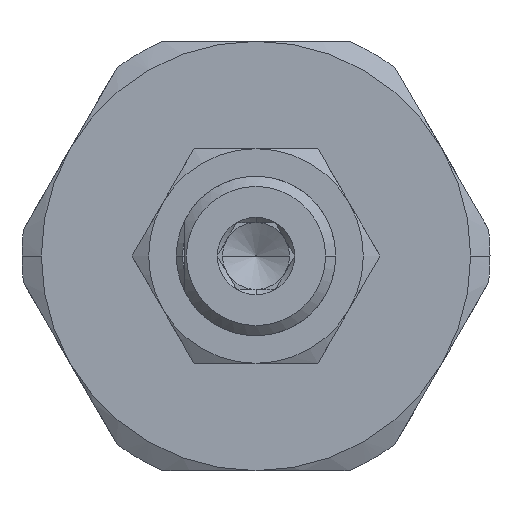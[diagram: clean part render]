
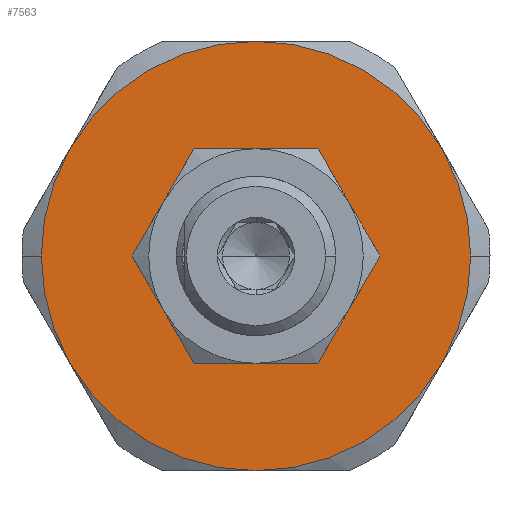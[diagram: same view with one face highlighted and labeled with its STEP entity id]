
A CAD part, left-side view. The second image highlights one B-rep face of the part: STEP entity #7563.
In plain terms, the highlighted planar face has unit normal (-1, 0, 0).
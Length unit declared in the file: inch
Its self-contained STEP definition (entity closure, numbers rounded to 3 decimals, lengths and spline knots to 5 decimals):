
#948=CARTESIAN_POINT('',(0.61,0.5,2.61));
#949=VERTEX_POINT('',#948);
#965=CARTESIAN_POINT('',(0.61,0.43301,2.36));
#966=VERTEX_POINT('',#965);
#980=CARTESIAN_POINT('',(0.61,0.0,2.61));
#981=DIRECTION('',(-1.0,0.0,0.0));
#982=DIRECTION('',(0.0,1.0,0.0));
#983=AXIS2_PLACEMENT_3D('',#980,#981,#982);
#984=CIRCLE('',#983,0.5);
#985=EDGE_CURVE('',#949,#966,#984,.T.);
#995=CARTESIAN_POINT('',(0.61,-0.5,2.61));
#996=VERTEX_POINT('',#995);
#1003=CARTESIAN_POINT('',(0.61,-0.43301,2.36));
#1004=VERTEX_POINT('',#1003);
#1005=CARTESIAN_POINT('',(0.61,0.0,2.61));
#1006=DIRECTION('',(-1.0,0.0,0.0));
#1007=DIRECTION('',(0.0,1.0,0.0));
#1008=AXIS2_PLACEMENT_3D('',#1005,#1006,#1007);
#1009=CIRCLE('',#1008,0.5);
#1010=EDGE_CURVE('',#1004,#996,#1009,.T.);
#5974=CARTESIAN_POINT('',(0.61,0.21651,2.735));
#5975=VERTEX_POINT('',#5974);
#5989=CARTESIAN_POINT('',(0.61,0.0,2.86));
#5990=VERTEX_POINT('',#5989);
#6004=CARTESIAN_POINT('',(0.61,0.,2.61));
#6005=DIRECTION('',(1.0,0.0,0.0));
#6006=DIRECTION('',(0.0,0.0,1.0));
#6007=AXIS2_PLACEMENT_3D('',#6004,#6005,#6006);
#6008=CIRCLE('',#6007,0.25);
#6009=EDGE_CURVE('',#5975,#5990,#6008,.T.);
#6021=CARTESIAN_POINT('',(0.61,0.21651,2.485));
#6022=VERTEX_POINT('',#6021);
#6049=CARTESIAN_POINT('',(0.61,0.,2.61));
#6050=DIRECTION('',(1.0,0.0,0.0));
#6051=DIRECTION('',(0.0,0.0,1.0));
#6052=AXIS2_PLACEMENT_3D('',#6049,#6050,#6051);
#6053=CIRCLE('',#6052,0.25);
#6054=EDGE_CURVE('',#6022,#5975,#6053,.T.);
#6066=CARTESIAN_POINT('',(0.61,0.0,2.36));
#6067=VERTEX_POINT('',#6066);
#6094=CARTESIAN_POINT('',(0.61,0.,2.61));
#6095=DIRECTION('',(1.0,0.0,0.0));
#6096=DIRECTION('',(0.0,0.0,1.0));
#6097=AXIS2_PLACEMENT_3D('',#6094,#6095,#6096);
#6098=CIRCLE('',#6097,0.25);
#6099=EDGE_CURVE('',#6067,#6022,#6098,.T.);
#6124=CARTESIAN_POINT('',(0.61,-0.21651,2.485));
#6125=VERTEX_POINT('',#6124);
#6126=CARTESIAN_POINT('',(0.61,0.,2.61));
#6127=DIRECTION('',(1.0,0.0,0.0));
#6128=DIRECTION('',(0.0,0.0,1.0));
#6129=AXIS2_PLACEMENT_3D('',#6126,#6127,#6128);
#6130=CIRCLE('',#6129,0.25);
#6131=EDGE_CURVE('',#6125,#6067,#6130,.T.);
#6169=CARTESIAN_POINT('',(0.61,-0.21651,2.735));
#6170=VERTEX_POINT('',#6169);
#6171=CARTESIAN_POINT('',(0.61,0.,2.61));
#6172=DIRECTION('',(1.0,0.0,0.0));
#6173=DIRECTION('',(0.0,0.0,1.0));
#6174=AXIS2_PLACEMENT_3D('',#6171,#6172,#6173);
#6175=CIRCLE('',#6174,0.25);
#6176=EDGE_CURVE('',#6170,#6125,#6175,.T.);
#6214=CARTESIAN_POINT('',(0.61,0.,2.61));
#6215=DIRECTION('',(1.0,0.0,0.0));
#6216=DIRECTION('',(0.0,0.0,1.0));
#6217=AXIS2_PLACEMENT_3D('',#6214,#6215,#6216);
#6218=CIRCLE('',#6217,0.25);
#6219=EDGE_CURVE('',#5990,#6170,#6218,.T.);
#7496=CARTESIAN_POINT('',(0.61,0.,2.61));
#7497=DIRECTION('',(1.0,0.0,0.0));
#7498=DIRECTION('',(0.0,0.0,-1.0));
#7499=AXIS2_PLACEMENT_3D('',#7496,#7497,#7498);
#7500=PLANE('',#7499);
#7501=CARTESIAN_POINT('',(0.61,-0.43301,2.86));
#7502=VERTEX_POINT('',#7501);
#7503=CARTESIAN_POINT('',(0.61,0.,3.11));
#7504=VERTEX_POINT('',#7503);
#7505=CARTESIAN_POINT('',(0.61,0.0,2.61));
#7506=DIRECTION('',(-1.0,0.0,0.0));
#7507=DIRECTION('',(0.0,1.0,0.0));
#7508=AXIS2_PLACEMENT_3D('',#7505,#7506,#7507);
#7509=CIRCLE('',#7508,0.5);
#7510=EDGE_CURVE('',#7502,#7504,#7509,.T.);
#7511=ORIENTED_EDGE('',*,*,#7510,.T.);
#7512=CARTESIAN_POINT('',(0.61,0.43301,2.86));
#7513=VERTEX_POINT('',#7512);
#7514=CARTESIAN_POINT('',(0.61,0.0,2.61));
#7515=DIRECTION('',(-1.0,0.0,0.0));
#7516=DIRECTION('',(0.0,1.0,0.0));
#7517=AXIS2_PLACEMENT_3D('',#7514,#7515,#7516);
#7518=CIRCLE('',#7517,0.5);
#7519=EDGE_CURVE('',#7504,#7513,#7518,.T.);
#7520=ORIENTED_EDGE('',*,*,#7519,.T.);
#7521=CARTESIAN_POINT('',(0.61,0.0,2.61));
#7522=DIRECTION('',(-1.0,0.0,0.0));
#7523=DIRECTION('',(0.0,1.0,0.0));
#7524=AXIS2_PLACEMENT_3D('',#7521,#7522,#7523);
#7525=CIRCLE('',#7524,0.5);
#7526=EDGE_CURVE('',#7513,#949,#7525,.T.);
#7527=ORIENTED_EDGE('',*,*,#7526,.T.);
#7528=ORIENTED_EDGE('',*,*,#985,.T.);
#7529=CARTESIAN_POINT('',(0.61,0.,2.11));
#7530=VERTEX_POINT('',#7529);
#7531=CARTESIAN_POINT('',(0.61,0.0,2.61));
#7532=DIRECTION('',(-1.0,0.0,0.0));
#7533=DIRECTION('',(0.0,1.0,0.0));
#7534=AXIS2_PLACEMENT_3D('',#7531,#7532,#7533);
#7535=CIRCLE('',#7534,0.5);
#7536=EDGE_CURVE('',#966,#7530,#7535,.T.);
#7537=ORIENTED_EDGE('',*,*,#7536,.T.);
#7538=CARTESIAN_POINT('',(0.61,0.0,2.61));
#7539=DIRECTION('',(-1.0,0.0,0.0));
#7540=DIRECTION('',(0.0,1.0,0.0));
#7541=AXIS2_PLACEMENT_3D('',#7538,#7539,#7540);
#7542=CIRCLE('',#7541,0.5);
#7543=EDGE_CURVE('',#7530,#1004,#7542,.T.);
#7544=ORIENTED_EDGE('',*,*,#7543,.T.);
#7545=ORIENTED_EDGE('',*,*,#1010,.T.);
#7546=CARTESIAN_POINT('',(0.61,0.0,2.61));
#7547=DIRECTION('',(-1.0,0.0,0.0));
#7548=DIRECTION('',(0.0,1.0,0.0));
#7549=AXIS2_PLACEMENT_3D('',#7546,#7547,#7548);
#7550=CIRCLE('',#7549,0.5);
#7551=EDGE_CURVE('',#996,#7502,#7550,.T.);
#7552=ORIENTED_EDGE('',*,*,#7551,.T.);
#7553=EDGE_LOOP('',(#7511,#7520,#7527,#7528,#7537,#7544,#7545,#7552));
#7554=FACE_OUTER_BOUND('',#7553,.T.);
#7555=ORIENTED_EDGE('',*,*,#6009,.T.);
#7556=ORIENTED_EDGE('',*,*,#6219,.T.);
#7557=ORIENTED_EDGE('',*,*,#6176,.T.);
#7558=ORIENTED_EDGE('',*,*,#6131,.T.);
#7559=ORIENTED_EDGE('',*,*,#6099,.T.);
#7560=ORIENTED_EDGE('',*,*,#6054,.T.);
#7561=EDGE_LOOP('',(#7555,#7556,#7557,#7558,#7559,#7560));
#7562=FACE_BOUND('',#7561,.T.);
#7563=ADVANCED_FACE('',(#7554,#7562),#7500,.F.);
